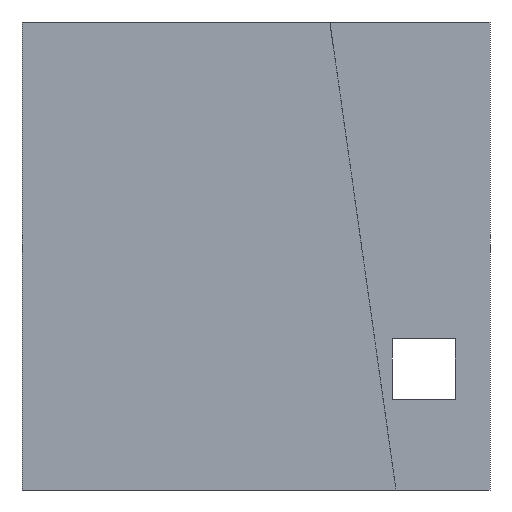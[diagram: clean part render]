
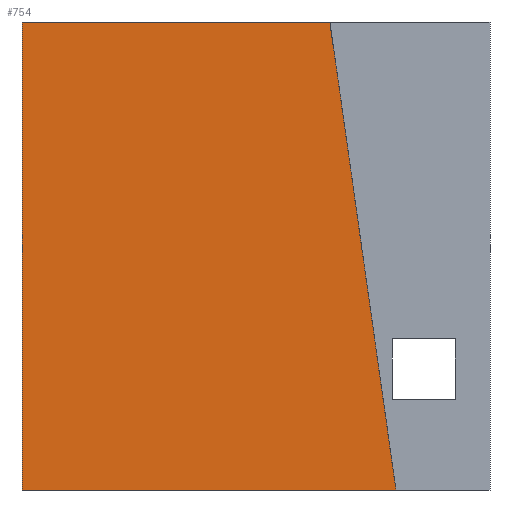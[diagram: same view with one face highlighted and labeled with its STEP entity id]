
A CAD part, left-side view. The second image highlights one B-rep face of the part: STEP entity #754.
In plain terms, the highlighted planar face has unit normal (-1, 0, 0).
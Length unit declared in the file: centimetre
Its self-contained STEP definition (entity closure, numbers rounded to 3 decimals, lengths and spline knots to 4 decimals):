
#27 = CARTESIAN_POINT ( 'NONE',  ( 0., 1000., 1000. ) ) ;
#89 = CARTESIAN_POINT ( 'NONE',  ( 0., 1000., 1000. ) ) ;
#92 = FACE_OUTER_BOUND ( 'NONE', #365, .T. ) ;
#128 = VERTEX_POINT ( 'NONE', #398 ) ;
#140 = VECTOR ( 'NONE', #506, 100. ) ;
#219 = ORIENTED_EDGE ( 'NONE', *, *, #428, .T. ) ;
#233 = VECTOR ( 'NONE', #357, 100. ) ;
#253 = VERTEX_POINT ( 'NONE', #743 ) ;
#274 = CARTESIAN_POINT ( 'NONE',  ( 0., 1000., 0. ) ) ;
#306 = AXIS2_PLACEMENT_3D ( 'NONE', #615, #363, #323 ) ;
#318 = ORIENTED_EDGE ( 'NONE', *, *, #652, .F. ) ;
#323 = DIRECTION ( 'NONE',  ( 0., 0., -1. ) ) ;
#338 = EDGE_CURVE ( 'NONE', #128, #588, #429, .T. ) ;
#357 = DIRECTION ( 'NONE',  ( 0., -1., 0. ) ) ;
#363 = DIRECTION ( 'NONE',  ( 1., 0., 0. ) ) ;
#365 = EDGE_LOOP ( 'NONE', ( #469, #601, #318, #219 ) ) ;
#398 = CARTESIAN_POINT ( 'NONE',  ( 0., 342.1721, 1000. ) ) ;
#412 = VECTOR ( 'NONE', #863, 100. ) ;
#414 = DIRECTION ( 'NONE',  ( 0., -1., 0. ) ) ;
#428 = EDGE_CURVE ( 'NONE', #253, #477, #1037, .T. ) ;
#429 = LINE ( 'NONE', #1026, #140 ) ;
#469 = ORIENTED_EDGE ( 'NONE', *, *, #1005, .T. ) ;
#477 = VERTEX_POINT ( 'NONE', #274 ) ;
#506 = DIRECTION ( 'NONE',  ( 0., -0.14, -0.99 ) ) ;
#587 = LINE ( 'NONE', #927, #715 ) ;
#588 = VERTEX_POINT ( 'NONE', #1058 ) ;
#601 = ORIENTED_EDGE ( 'NONE', *, *, #338, .F. ) ;
#615 = CARTESIAN_POINT ( 'NONE',  ( 0., 1000., 1000. ) ) ;
#652 = EDGE_CURVE ( 'NONE', #253, #128, #707, .T. ) ;
#707 = LINE ( 'NONE', #27, #233 ) ;
#715 = VECTOR ( 'NONE', #414, 100. ) ;
#743 = CARTESIAN_POINT ( 'NONE',  ( 0., 1000., 1000. ) ) ;
#754 = ADVANCED_FACE ( 'NONE', ( #92 ), #786, .F. ) ;
#786 = PLANE ( 'NONE',  #306 ) ;
#863 = DIRECTION ( 'NONE',  ( 0., 0., -1. ) ) ;
#927 = CARTESIAN_POINT ( 'NONE',  ( 0., 1000., 0. ) ) ;
#1005 = EDGE_CURVE ( 'NONE', #477, #588, #587, .T. ) ;
#1026 = CARTESIAN_POINT ( 'NONE',  ( 0., 342.1721, 1000. ) ) ;
#1037 = LINE ( 'NONE', #89, #412 ) ;
#1058 = CARTESIAN_POINT ( 'NONE',  ( 0., 201.0828, 0. ) ) ;
